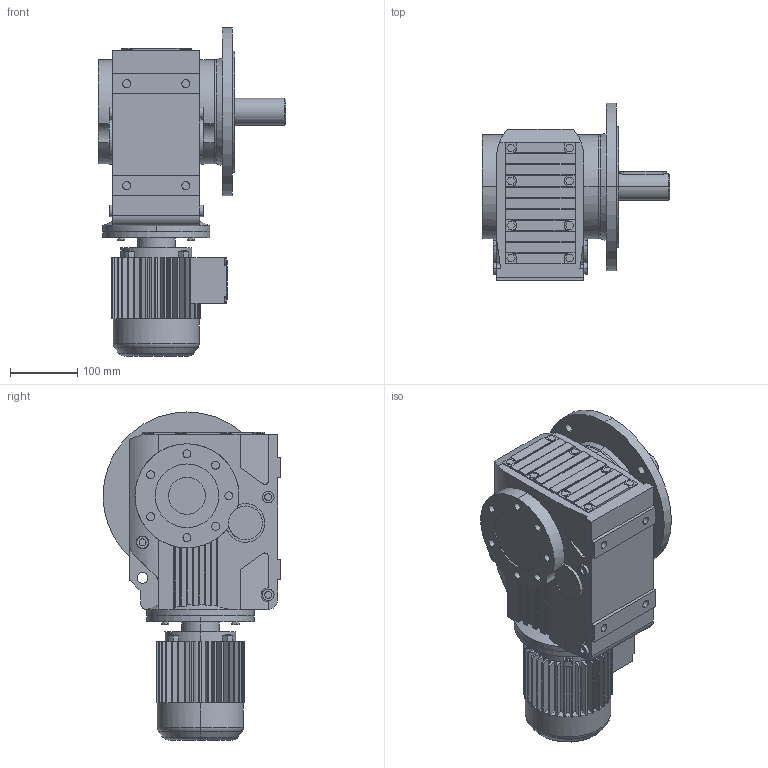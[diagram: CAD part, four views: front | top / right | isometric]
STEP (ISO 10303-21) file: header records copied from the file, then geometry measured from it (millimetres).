
FILE_DESCRIPTION(('Open CASCADE Model'),'2;1');
FILE_NAME('Open CASCADE Shape Model','2021-07-20T14:38:49',('Author'),( 'Open CASCADE'),'Open CASCADE STEP processor 6.3','Open CASCADE 6.3' ,'Unknown');
FILE_SCHEMA(('AUTOMOTIVE_DESIGN_CC2 { 1 2 10303 214 -1 1 5 4 }'));
Length unit declared in the file: millimetre
Products named in the file (5): 1_KF67DR63-A; KA37‵107_67.step; 萇儂_160-DR63-185-240-132-105.step; す瑩妗陑粣K_67.step; 楊擘K_67.step
Assembly tree (4 placements, depth 2):
  1_KF67DR63-A
    KA37‵107_67.step
    萇儂_160-DR63-185-240-132-105.step
    す瑩妗陑粣K_67.step
    楊擘K_67.step
Bounding box: 279.5 x 265 x 489 mm (x, y, z)
Volume: 11086160.9 mm3; surface area: 691289.3 mm2
Topology: 4 solids, 4 shells, 883 faces, 2288 edges, 1484 vertices
Faces by surface type: plane 566, cylinder 297, cone 16, torus 4
Entity records: 65940 total; most frequent: CARTESIAN_POINT 23091, DIRECTION 7156, ORIENTED_EDGE 4572, PCURVE 4572, DEFINITIONAL_REPRESENTATION 4572, LINE 3661, VECTOR 3661, EDGE_CURVE 2286
